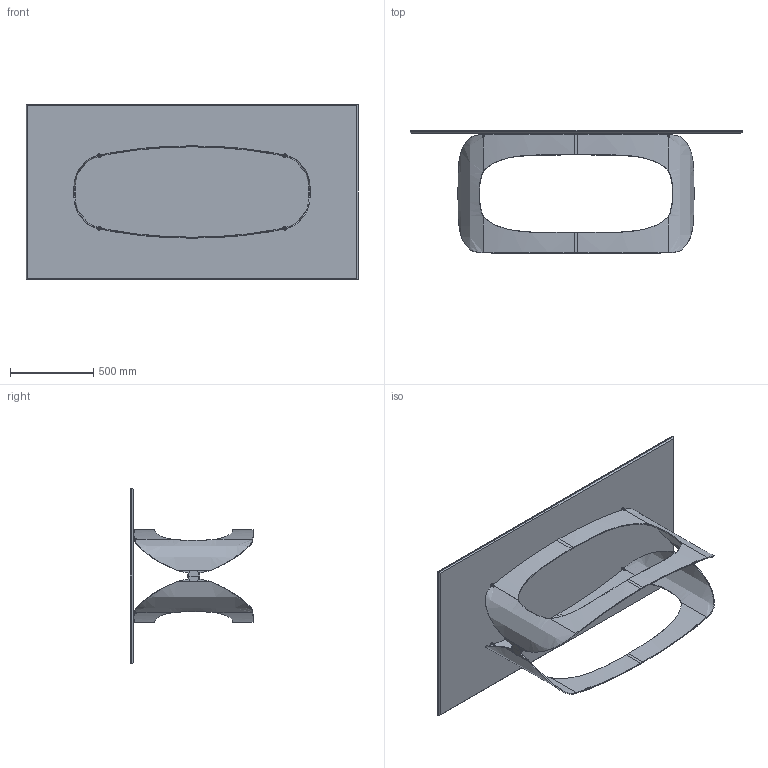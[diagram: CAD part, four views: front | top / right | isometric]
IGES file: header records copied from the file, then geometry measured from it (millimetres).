
Start section: SolidWorks IGES file using analytic representation for surfaces
Global section: file name: Y:\eforma\TECNICO\SOLIDWORKS\E-FORMA\1-TAVOLI\POLIFEMO\02 parts\PO21C.IGS; native system: SolidWorks 2022; preprocessor: SolidWorks 2022; author: eforma.tech; date: 240806.160845; units: millimetre
Bounding box: 2000 x 740.97 x 1060 mm (x, y, z)
Volume: 40943531.8 mm3; surface area: 11075749.2 mm2
Topology: 25 solids, 25 shells, 490 faces, 1216 edges, 782 vertices
Faces by surface type: revolution 245, plane 165, bspline 80
